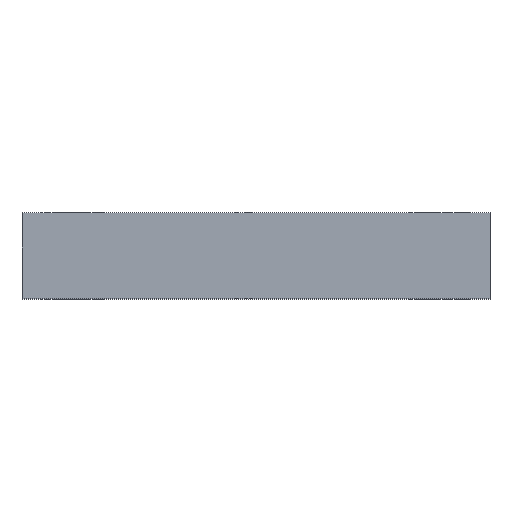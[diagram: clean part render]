
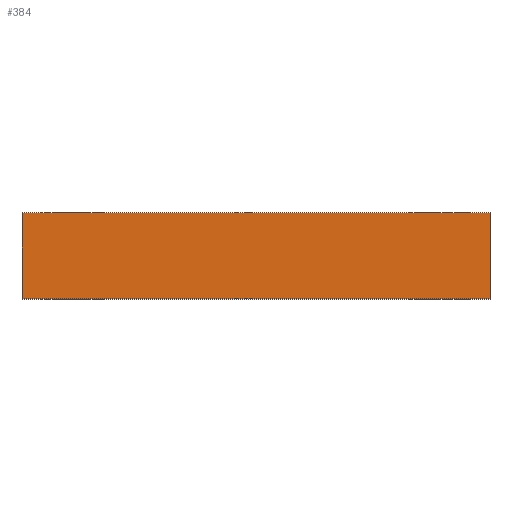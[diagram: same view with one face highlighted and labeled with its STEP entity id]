
A CAD part, top view. The second image highlights one B-rep face of the part: STEP entity #384.
In plain terms, the highlighted planar face has unit normal (0, 0, 1).
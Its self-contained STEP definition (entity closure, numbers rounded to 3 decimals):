
#74 = CARTESIAN_POINT ( 'NONE',  ( -98., 0., 98. ) ) ;
#125 = EDGE_CURVE ( 'NONE', #500, #534, #720, .T. ) ;
#128 = CARTESIAN_POINT ( 'NONE',  ( -98., 36., 98. ) ) ;
#137 = ORIENTED_EDGE ( 'NONE', *, *, #620, .T. ) ;
#185 = VECTOR ( 'NONE', #505, 1000. ) ;
#197 = CARTESIAN_POINT ( 'NONE',  ( 98., 36., 98. ) ) ;
#233 = DIRECTION ( 'NONE',  ( 0., 0., -1. ) ) ;
#236 = CARTESIAN_POINT ( 'NONE',  ( -98., 36., 98. ) ) ;
#243 = PLANE ( 'NONE',  #431 ) ;
#274 = FACE_OUTER_BOUND ( 'NONE', #657, .T. ) ;
#331 = DIRECTION ( 'NONE',  ( 0., -1., 0. ) ) ;
#338 = LINE ( 'NONE', #197, #463 ) ;
#384 = ADVANCED_FACE ( 'NONE', ( #274 ), #243, .F. ) ;
#395 = CARTESIAN_POINT ( 'NONE',  ( 98., 36., 98. ) ) ;
#431 = AXIS2_PLACEMENT_3D ( 'NONE', #236, #233, #663 ) ;
#463 = VECTOR ( 'NONE', #331, 1000. ) ;
#481 = LINE ( 'NONE', #74, #542 ) ;
#500 = VERTEX_POINT ( 'NONE', #128 ) ;
#503 = DIRECTION ( 'NONE',  ( 1., 0., 0. ) ) ;
#505 = DIRECTION ( 'NONE',  ( 1., 0., 0. ) ) ;
#514 = VECTOR ( 'NONE', #760, 1000. ) ;
#534 = VERTEX_POINT ( 'NONE', #682 ) ;
#542 = VECTOR ( 'NONE', #503, 1000. ) ;
#591 = EDGE_CURVE ( 'NONE', #500, #669, #627, .T. ) ;
#599 = EDGE_CURVE ( 'NONE', #669, #689, #338, .T. ) ;
#620 = EDGE_CURVE ( 'NONE', #534, #689, #481, .T. ) ;
#627 = LINE ( 'NONE', #748, #185 ) ;
#657 = EDGE_LOOP ( 'NONE', ( #137, #765, #706, #744 ) ) ;
#663 = DIRECTION ( 'NONE',  ( -1., 0., 0. ) ) ;
#669 = VERTEX_POINT ( 'NONE', #395 ) ;
#682 = CARTESIAN_POINT ( 'NONE',  ( -98., 0., 98. ) ) ;
#689 = VERTEX_POINT ( 'NONE', #754 ) ;
#706 = ORIENTED_EDGE ( 'NONE', *, *, #591, .F. ) ;
#720 = LINE ( 'NONE', #770, #514 ) ;
#744 = ORIENTED_EDGE ( 'NONE', *, *, #125, .T. ) ;
#748 = CARTESIAN_POINT ( 'NONE',  ( -98., 36., 98. ) ) ;
#754 = CARTESIAN_POINT ( 'NONE',  ( 98., 0., 98. ) ) ;
#760 = DIRECTION ( 'NONE',  ( 0., -1., 0. ) ) ;
#765 = ORIENTED_EDGE ( 'NONE', *, *, #599, .F. ) ;
#770 = CARTESIAN_POINT ( 'NONE',  ( -98., 36., 98. ) ) ;
